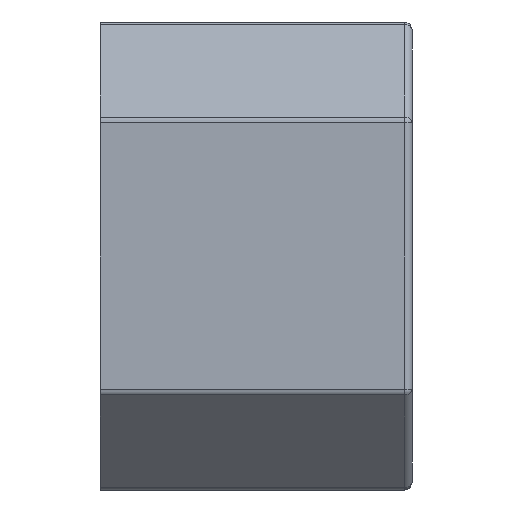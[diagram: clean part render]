
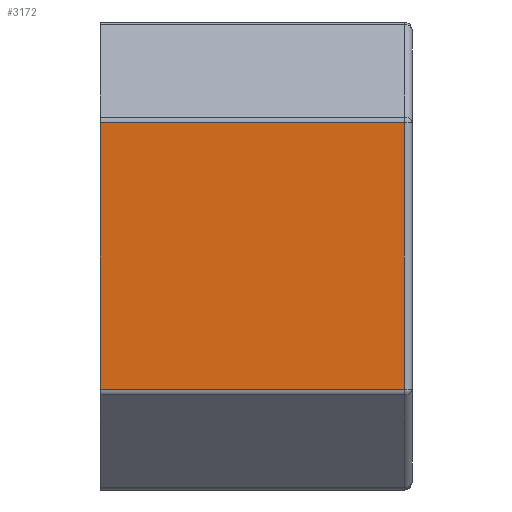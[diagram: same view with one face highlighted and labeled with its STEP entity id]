
A CAD part, left-side view. The second image highlights one B-rep face of the part: STEP entity #3172.
In plain terms, the highlighted planar face has unit normal (-1, 0, 0).
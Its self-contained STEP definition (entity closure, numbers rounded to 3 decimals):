
#100 = CARTESIAN_POINT ( 'NONE',  ( 0., -8., 2.083 ) ) ;
#149 = DIRECTION ( 'NONE',  ( 0., 1., 0. ) ) ;
#273 = AXIS2_PLACEMENT_3D ( 'NONE', #994, #742, #3282 ) ;
#363 = ORIENTED_EDGE ( 'NONE', *, *, #1171, .T. ) ;
#495 = ORIENTED_EDGE ( 'NONE', *, *, #2110, .T. ) ;
#538 = ORIENTED_EDGE ( 'NONE', *, *, #1553, .T. ) ;
#599 = VERTEX_POINT ( 'NONE', #1496 ) ;
#697 = LINE ( 'NONE', #3275, #983 ) ;
#742 = DIRECTION ( 'NONE',  ( 1., 0., 0. ) ) ;
#905 = VERTEX_POINT ( 'NONE', #2307 ) ;
#955 = PLANE ( 'NONE',  #273 ) ;
#983 = VECTOR ( 'NONE', #2544, 1000. ) ;
#994 = CARTESIAN_POINT ( 'NONE',  ( 0., 0., 11. ) ) ;
#1014 = EDGE_CURVE ( 'NONE', #1133, #905, #697, .T. ) ;
#1126 = DIRECTION ( 'NONE',  ( 0., -1., 0. ) ) ;
#1133 = VERTEX_POINT ( 'NONE', #1355 ) ;
#1171 = EDGE_CURVE ( 'NONE', #1549, #599, #2331, .T. ) ;
#1284 = VECTOR ( 'NONE', #149, 1000. ) ;
#1355 = CARTESIAN_POINT ( 'NONE',  ( 0., -7.8, 2.083 ) ) ;
#1409 = VECTOR ( 'NONE', #1126, 1000. ) ;
#1452 = LINE ( 'NONE', #2234, #1284 ) ;
#1496 = CARTESIAN_POINT ( 'NONE',  ( 0., 0., 2.083 ) ) ;
#1549 = VERTEX_POINT ( 'NONE', #3116 ) ;
#1553 = EDGE_CURVE ( 'NONE', #599, #1133, #2382, .T. ) ;
#1808 = DIRECTION ( 'NONE',  ( 0., 0., -1. ) ) ;
#1996 = VECTOR ( 'NONE', #1808, 1000. ) ;
#2107 = CARTESIAN_POINT ( 'NONE',  ( 0., 0., 11. ) ) ;
#2110 = EDGE_CURVE ( 'NONE', #905, #1549, #1452, .T. ) ;
#2230 = FACE_OUTER_BOUND ( 'NONE', #2686, .T. ) ;
#2234 = CARTESIAN_POINT ( 'NONE',  ( 0., 0., 8.917 ) ) ;
#2307 = CARTESIAN_POINT ( 'NONE',  ( 0., -7.8, 8.917 ) ) ;
#2331 = LINE ( 'NONE', #2107, #1996 ) ;
#2382 = LINE ( 'NONE', #100, #1409 ) ;
#2544 = DIRECTION ( 'NONE',  ( 0., 0., 1. ) ) ;
#2686 = EDGE_LOOP ( 'NONE', ( #363, #538, #2933, #495 ) ) ;
#2933 = ORIENTED_EDGE ( 'NONE', *, *, #1014, .T. ) ;
#3116 = CARTESIAN_POINT ( 'NONE',  ( 0., 0., 8.917 ) ) ;
#3172 = ADVANCED_FACE ( 'NONE', ( #2230 ), #955, .F. ) ;
#3275 = CARTESIAN_POINT ( 'NONE',  ( 0., -7.8, 11. ) ) ;
#3282 = DIRECTION ( 'NONE',  ( 0., 1., 0. ) ) ;
